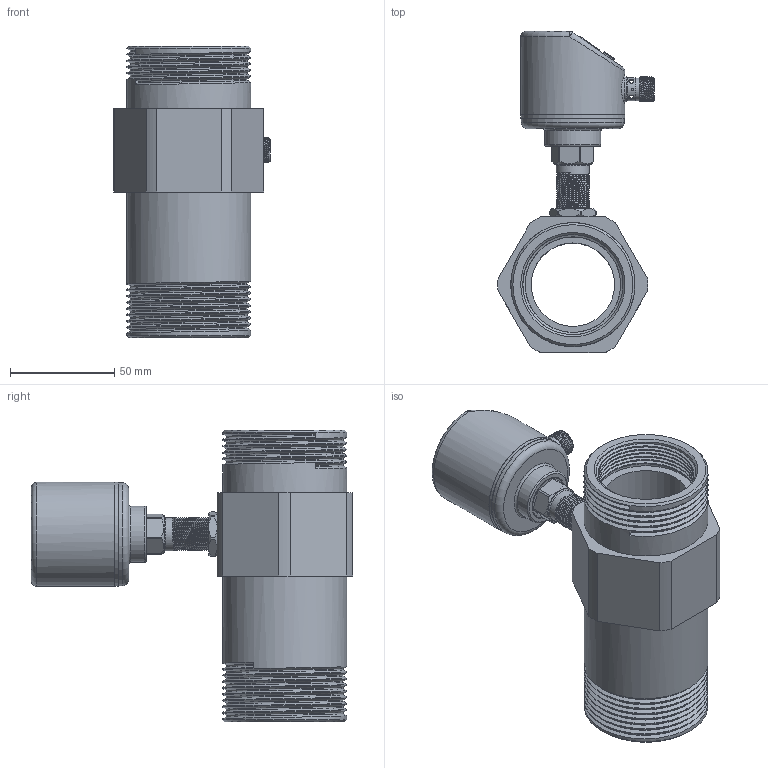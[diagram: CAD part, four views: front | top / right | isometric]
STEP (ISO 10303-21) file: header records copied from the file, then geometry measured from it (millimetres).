
FILE_DESCRIPTION (( 'STEP AP214' ), '1' );
FILE_NAME ('DN40俋杅珆.STEP', '2025-03-05T01:27:25', ( '' ), ( '' ), 'SwSTEP 2.0', 'SolidWorks 2020', '' );
FILE_SCHEMA (( 'AUTOMOTIVE_DESIGN' ));
Length unit declared in the file: millimetre
Products named in the file (10): 滅阨諉芛褲极1; DN40俋杅珆; 蹟譫1; 偌瑩簽; PVC躇猾菜; 揤薯珆尨欶; 揤薯奻裔; 恦謫抻芛5; DN40; 抻芛俋蹟恇G1-4
Assembly tree (11 placements, depth 2):
  DN40俋杅珆
    揤薯奻裔
    揤薯珆尨欶
    滅阨諉芛褲极1
    偌瑩簽  x3
    PVC躇猾菜
    抻芛俋蹟恇G1-4
    恦謫抻芛5
    蹟譫1
    DN40
Bounding box: 74.99 x 154 x 140 mm (x, y, z)
Volume: 251154.7 mm3; surface area: 90845.7 mm2
Topology: 11 solids, 11 shells, 484 faces, 1167 edges, 761 vertices
Faces by surface type: cylinder 201, plane 174, cone 65, bspline 28, torus 12, sphere 4
Full cylindrical faces by diameter (mm): 1 x4, 1.2 x3, 1.8 x1, 2 x5, 2.5 x7, 2.8 x1, 4.3 x3, 4.5 x6, 7 x15, 7.2 x1, 8.5 x1, 9.75 x1, 10.5 x1, 10.7 x1, 10.8 x1, 10.9 x1, 11 x2, 12 x1, 14 x1, 14.3 x1, 14.4 x1, 14.8 x1, 16 x33, 17.34 x2, 17.4 x1, 19.477 x1, 21.24 x1, 21.3 x1, 24 x1, 27 x1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
Entity records: 26238 total; most frequent: CARTESIAN_POINT 17529, DIRECTION 1692, ORIENTED_EDGE 1492, EDGE_CURVE 746, AXIS2_PLACEMENT_3D 687, EDGE_LOOP 594, VERTEX_POINT 544, FACE_OUTER_BOUND 462
